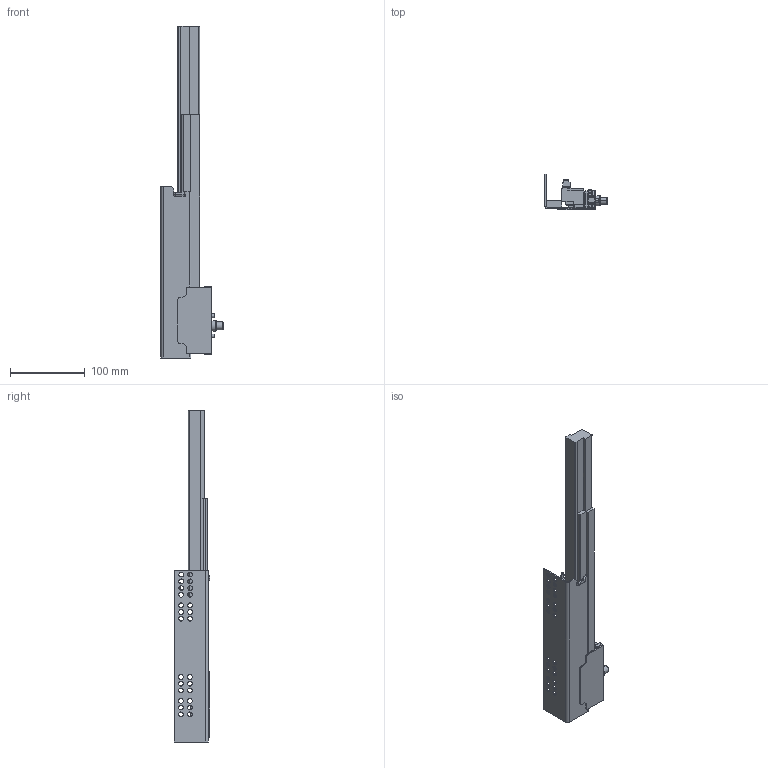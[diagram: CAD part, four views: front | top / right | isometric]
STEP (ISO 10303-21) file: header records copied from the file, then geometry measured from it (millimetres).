
FILE_DESCRIPTION (( 'STEP AP203' ), '1' );
FILE_NAME ('TF10270H-L-DTC3D-open.STEP', '2021-06-05T02:57:12', ( 'df' ), ( 'Microsoft' ), 'SwSTEP 2.0', 'SolidWorks 2018', '' );
FILE_SCHEMA (( 'CONFIG_CONTROL_DESIGN' ));
Length unit declared in the file: millimetre
Products named in the file (1): TF10270H-L-DTC3D-open
Bounding box: 83.3 x 48 x 444.3 mm (x, y, z)
Volume: 288967.1 mm3; surface area: 87966.2 mm2
Topology: 1 solids, 4 shells, 533 faces, 1375 edges, 849 vertices
Faces by surface type: cylinder 246, plane 179, bspline 102, sphere 4, torus 2
Entity records: 18088 total; most frequent: CARTESIAN_POINT 5317, ORIENTED_EDGE 2728, DIRECTION 2628, EDGE_CURVE 1364, AXIS2_PLACEMENT_3D 966, VERTEX_POINT 849, LINE 696, VECTOR 696
